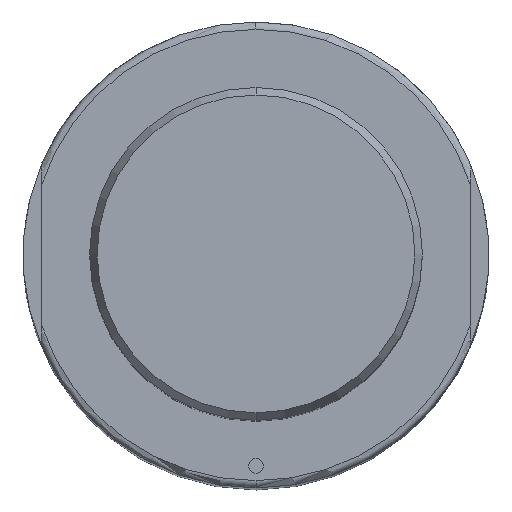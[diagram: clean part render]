
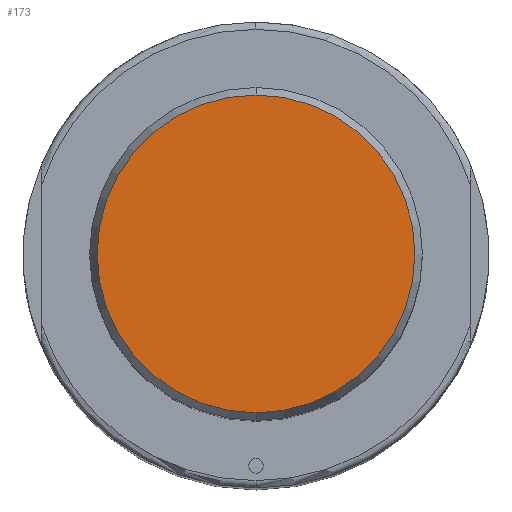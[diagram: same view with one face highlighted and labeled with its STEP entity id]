
A CAD part, top view. The second image highlights one B-rep face of the part: STEP entity #173.
In plain terms, the highlighted planar face has unit normal (0, 0, 1).
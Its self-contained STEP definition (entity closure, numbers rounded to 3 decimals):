
#124=PLANE('',#990);
#173=ADVANCED_FACE('',(#244),#124,.T.);
#244=FACE_OUTER_BOUND('',#297,.T.);
#297=EDGE_LOOP('',(#457,#458));
#364=CIRCLE('',#975,21.481);
#365=CIRCLE('',#977,21.481);
#457=ORIENTED_EDGE('',*,*,#758,.F.);
#458=ORIENTED_EDGE('',*,*,#759,.F.);
#677=VERTEX_POINT('',#1413);
#680=VERTEX_POINT('',#1418);
#758=EDGE_CURVE('',#680,#677,#364,.T.);
#759=EDGE_CURVE('',#677,#680,#365,.T.);
#975=AXIS2_PLACEMENT_3D('',#1419,#1109,#1110);
#977=AXIS2_PLACEMENT_3D('',#1421,#1113,#1114);
#990=AXIS2_PLACEMENT_3D('',#1444,#1143,#1144);
#1109=DIRECTION('',(0.,0.,-1.));
#1110=DIRECTION('',(-1.,0.,0.));
#1113=DIRECTION('',(0.,0.,-1.));
#1114=DIRECTION('',(1.,0.,0.));
#1143=DIRECTION('',(0.,0.,1.));
#1144=DIRECTION('',(0.,-1.,0.));
#1413=CARTESIAN_POINT('',(0.,-21.481,240.));
#1418=CARTESIAN_POINT('',(0.,21.481,240.));
#1419=CARTESIAN_POINT('',(0.,0.,240.));
#1421=CARTESIAN_POINT('',(0.,0.,240.));
#1444=CARTESIAN_POINT('',(0.,0.,240.));
